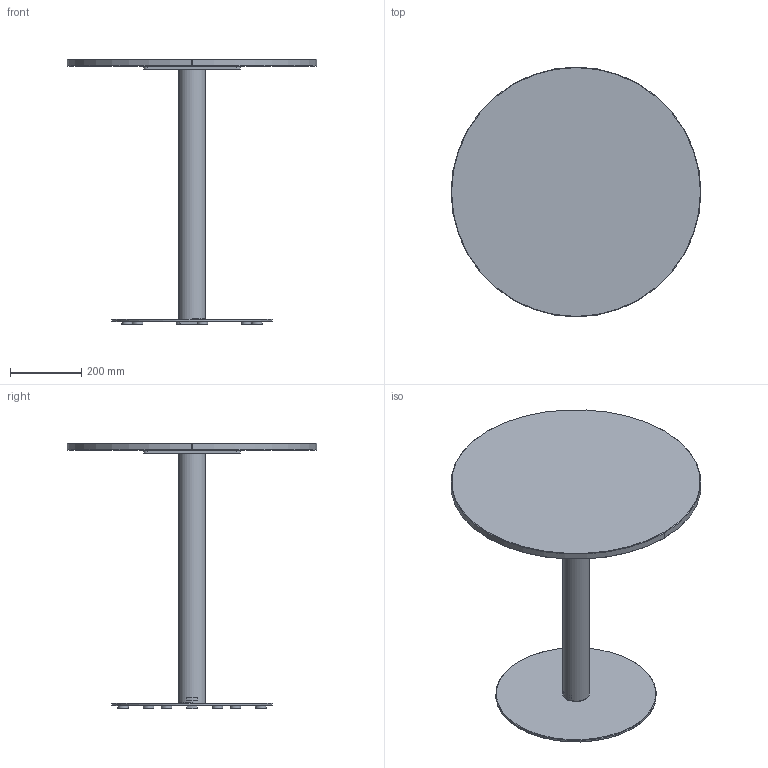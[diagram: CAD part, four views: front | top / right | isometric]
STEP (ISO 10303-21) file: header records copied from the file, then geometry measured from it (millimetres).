
FILE_DESCRIPTION( ('This file contains a STEP AP42 implementation' ,'as created by ZW3D STEP Interface translator.') ,'2;1' );
FILE_NAME( 'Henri - B_Rond - F1 - M1 - 700 x 700 x 750.stp' ,'24 912.15 423', (''), ('ZWCAD Software Co.'), 'Version 1.0', 'ZW3D to STEP translator', '' );
FILE_SCHEMA(('AUTOMOTIVE_DESIGN { 1 0 10303 214 1 1 1 1 }'));
Length unit declared in the file: millimetre
Products named in the file (14): 0; PIED BISTROT PARAMETRIQUE_; COLONNE ACIER Ø76 V.02_; TUB-D076-02_; PLA-R76B-01_; SOCLE ACIER C Ø450 V.02_; SCL-D450-02_; PLA-R30A-01_; PLA-R30A-01; CROIX ACIER 370 V.02_; CRX-X370-02_; WUERTH 0276063020 Euro-screw 6.3x2 Verzinkt_; PLATEAU BISTROT PARAMETRIQUE_; insert_m6_13_
Assembly tree (24 placements, depth 3):
  0
  PIED BISTROT PARAMETRIQUE_
    COLONNE ACIER Ø76 V.02_
      TUB-D076-02_
      PLA-R76B-01_  x2
    SOCLE ACIER C Ø450 V.02_
      SCL-D450-02_
      PLA-R30A-01_
      PLA-R30A-01  x5
    CROIX ACIER 370 V.02_
      CRX-X370-02_
    WUERTH 0276063020 Euro-screw 6.3x2 Verzinkt_
    PLATEAU BISTROT PARAMETRIQUE_
      insert_m6_13_  x8
Bounding box: 700 x 700 x 744 mm (x, y, z)
Volume: 9920324.3 mm3; surface area: 1665154.6 mm2
Topology: 21 solids, 21 shells, 524 faces, 1273 edges, 802 vertices
Faces by surface type: plane 254, bspline 121, cylinder 99, cone 49, torus 1
Full cylindrical faces by diameter (mm): 4.88 x1, 6 x8, 6.3 x1, 8 x47, 12 x2, 14 x2, 30 x6, 72 x1, 76 x1, 450 x1
Entity records: 11734 total; most frequent: CARTESIAN_POINT 3302, ORIENTED_EDGE 1526, DIRECTION 1424, EDGE_CURVE 763, VERTEX_POINT 490, VECTOR 476, LINE 476, AXIS2_PLACEMENT_3D 474
